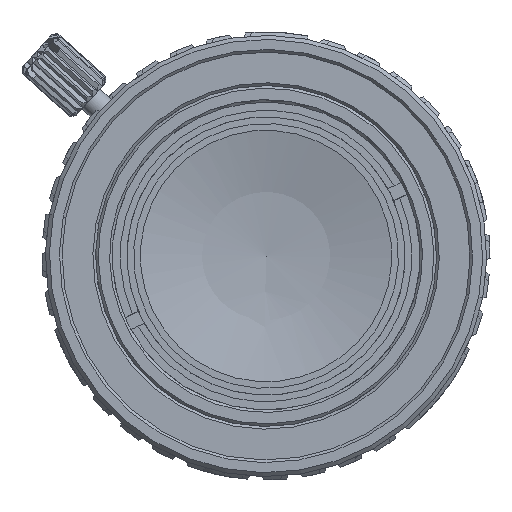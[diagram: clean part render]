
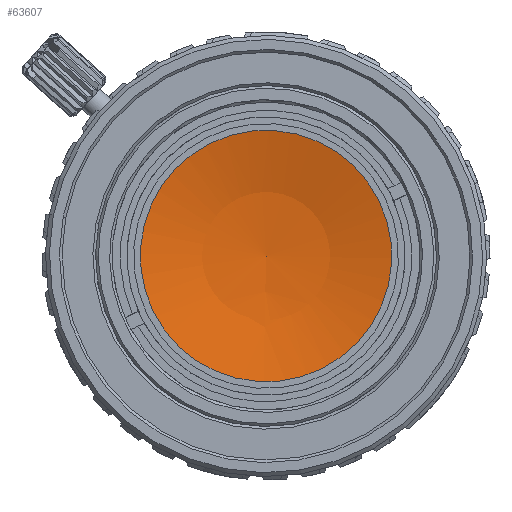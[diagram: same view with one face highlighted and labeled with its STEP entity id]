
A CAD part, left-side view. The second image highlights one B-rep face of the part: STEP entity #63607.
In plain terms, the highlighted spherical face has radius 35.88 mm.
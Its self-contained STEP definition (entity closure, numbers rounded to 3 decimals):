
#9133 = DIRECTION ( 'NONE',  ( 1., 0., 0. ) ) ;
#9869 = DIRECTION ( 'NONE',  ( 0., 0.02, -1. ) ) ;
#10697 = DIRECTION ( 'NONE',  ( 0., 0.02, -1. ) ) ;
#11079 = AXIS2_PLACEMENT_3D ( 'NONE', #26586, #21405, #10697 ) ;
#11427 = EDGE_CURVE ( 'NONE', #46102, #47891, #27628, .T. ) ;
#14686 = FACE_OUTER_BOUND ( 'NONE', #46519, .T. ) ;
#19999 = CARTESIAN_POINT ( 'NONE',  ( 123.142, 133.175, -10.67 ) ) ;
#21405 = DIRECTION ( 'NONE',  ( 1., 0., 0. ) ) ;
#26586 = CARTESIAN_POINT ( 'NONE',  ( 123.142, 133.362, -20.153 ) ) ;
#26679 = DIRECTION ( 'NONE',  ( 1., 0., 0. ) ) ;
#27628 = CIRCLE ( 'NONE', #11079, 9.485 ) ;
#35697 = AXIS2_PLACEMENT_3D ( 'NONE', #48804, #26679, #59504 ) ;
#35762 = ORIENTED_EDGE ( 'NONE', *, *, #11427, .F. ) ;
#46102 = VERTEX_POINT ( 'NONE', #19999 ) ;
#46519 = EDGE_LOOP ( 'NONE', ( #51083, #35762 ) ) ;
#47891 = VERTEX_POINT ( 'NONE', #59120 ) ;
#48804 = CARTESIAN_POINT ( 'NONE',  ( 123.142, 133.362, -20.153 ) ) ;
#51083 = ORIENTED_EDGE ( 'NONE', *, *, #60610, .F. ) ;
#54606 = AXIS2_PLACEMENT_3D ( 'NONE', #59671, #9133, #9869 ) ;
#59120 = CARTESIAN_POINT ( 'NONE',  ( 123.142, 133.548, -29.636 ) ) ;
#59313 = SPHERICAL_SURFACE ( 'NONE', #54606, 35.88 ) ;
#59504 = DIRECTION ( 'NONE',  ( 0., 0.02, -1. ) ) ;
#59671 = CARTESIAN_POINT ( 'NONE',  ( 88.538, 133.362, -20.153 ) ) ;
#60610 = EDGE_CURVE ( 'NONE', #47891, #46102, #71052, .T. ) ;
#63607 = ADVANCED_FACE ( 'NONE', ( #14686 ), #59313, .F. ) ;
#71052 = CIRCLE ( 'NONE', #35697, 9.485 ) ;
